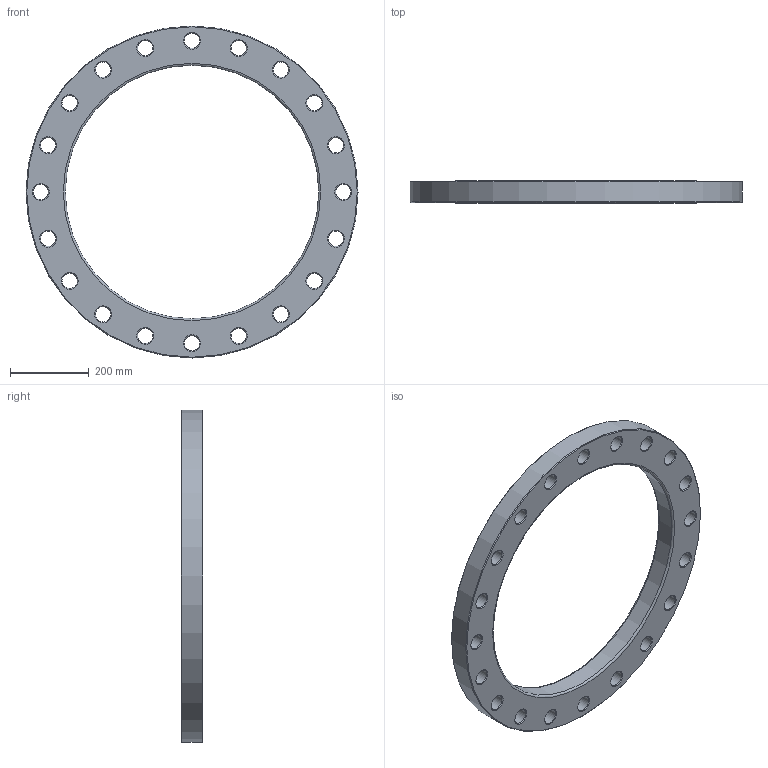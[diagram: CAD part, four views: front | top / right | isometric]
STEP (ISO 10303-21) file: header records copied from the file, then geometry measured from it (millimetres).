
FILE_DESCRIPTION(/* description */ ('Unknown'),/* implementation_level */ '2;1');
FILE_NAME(/* name */ 'FZ630H',/* time_stamp */ '2021-03-15T15:04:35+01:00',/* author */ ('Unknown'),/* organization */ ('Unknown'),/* preprocessor_version */ 'ST-DEVELOPER v16.7',/* originating_system */ 'Solid Edge',/* authorisation */ 'Unknown');
FILE_SCHEMA (('AUTOMOTIVE_DESIGN {1 0 10303 214 3 1 1}'));
Length unit declared in the file: millimetre
Products named in the file (1): FZ630H
Bounding box: 845 x 55 x 845 mm (x, y, z)
Volume: 11516069.6 mm3; surface area: 792102.5 mm2
Topology: 1 solids, 1 shells, 68 faces, 214 edges, 148 vertices
Faces by surface type: cone 42, cylinder 22, plane 2, torus 2
Full cylindrical faces by diameter (mm): 39 x20, 645 x1, 845 x1
Entity records: 1678 total; most frequent: DIRECTION 314, CARTESIAN_POINT 245, ORIENTED_EDGE 176, EDGE_LOOP 176, FACE_BOUND 176, AXIS2_PLACEMENT_3D 157, EDGE_CURVE 88, VERTEX_POINT 88
